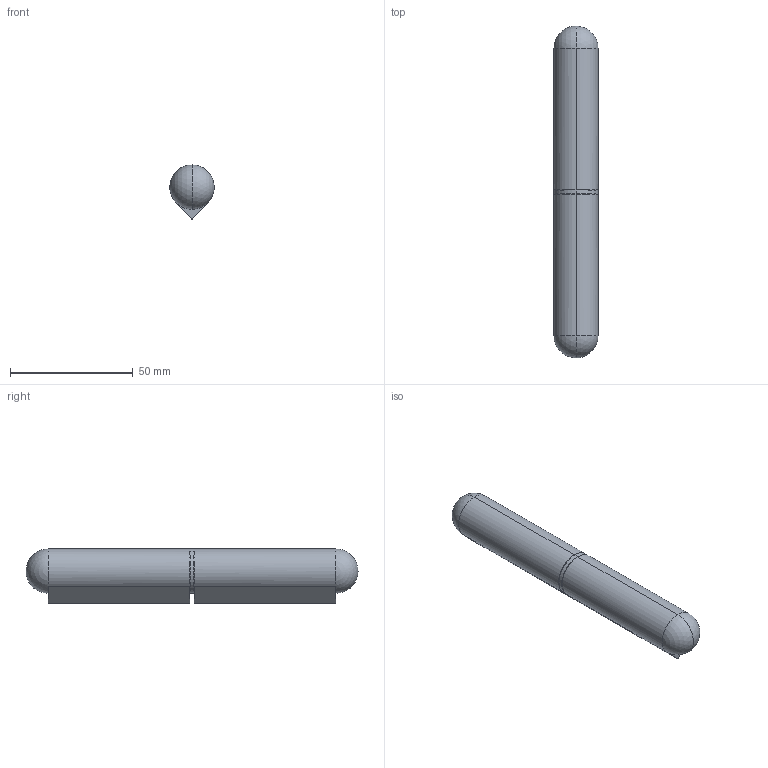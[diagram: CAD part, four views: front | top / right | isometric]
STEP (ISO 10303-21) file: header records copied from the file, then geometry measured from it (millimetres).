
FILE_DESCRIPTION (( 'STEP AP214' ), '1' );
FILE_NAME ('7011.00.135.STEP', '2021-01-21T03:30:24', ( '' ), ( '' ), 'SwSTEP 2.0', 'SolidWorks 2018', '' );
FILE_SCHEMA (( 'AUTOMOTIVE_DESIGN' ));
Length unit declared in the file: millimetre
Products named in the file (4): 7011.00-3_7011.00.135; 7011.00.135; 7011.00-2_7011.00.135; 7011.00-1_7004.00.135
Assembly tree (4 placements, depth 2):
  7011.00.135
    7011.00-1_7004.00.135  x2
    7011.00-2_7011.00.135
    7011.00-3_7011.00.135
Bounding box: 18 x 135 x 22 mm (x, y, z)
Volume: 34541.3 mm3; surface area: 16583.3 mm2
Topology: 4 solids, 4 shells, 45 faces, 104 edges, 63 vertices
Faces by surface type: cylinder 18, plane 13, torus 8, sphere 6
Entity records: 1100 total; most frequent: DIRECTION 188, CARTESIAN_POINT 142, ORIENTED_EDGE 128, AXIS2_PLACEMENT_3D 85, EDGE_CURVE 64, CIRCLE 46, VERTEX_POINT 39, EDGE_LOOP 35
